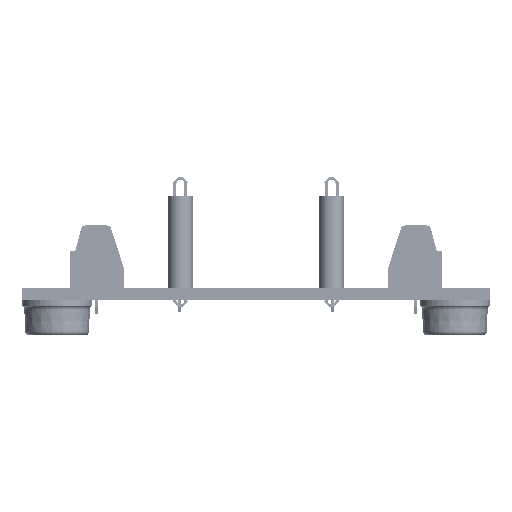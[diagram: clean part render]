
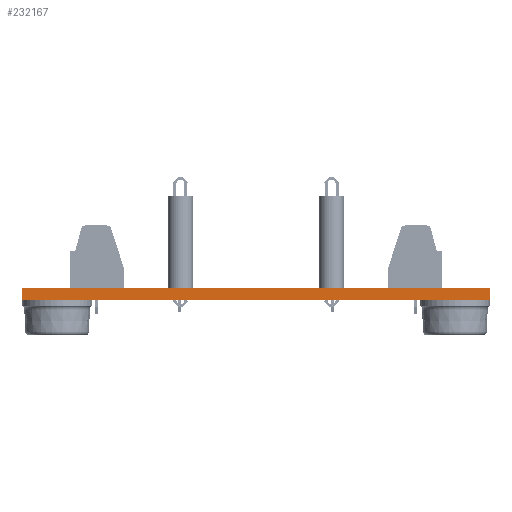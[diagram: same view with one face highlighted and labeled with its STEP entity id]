
A CAD part, left-side view. The second image highlights one B-rep face of the part: STEP entity #232167.
In plain terms, the highlighted planar face has unit normal (-1, 0, 0).
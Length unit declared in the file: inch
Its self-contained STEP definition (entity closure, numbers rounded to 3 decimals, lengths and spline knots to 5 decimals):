
#19286 = ORIENTED_EDGE ( 'NONE', *, *, #404063, .F. ) ;
#40787 = ORIENTED_EDGE ( 'NONE', *, *, #309260, .F. ) ;
#42255 = VERTEX_POINT ( 'NONE', #284220 ) ;
#58674 = PLANE ( 'NONE',  #409930 ) ;
#64025 = CARTESIAN_POINT ( 'NONE',  ( 0., 2.5, -0.0626 ) ) ;
#76797 = VECTOR ( 'NONE', #260042, 39.37008 ) ;
#80676 = CARTESIAN_POINT ( 'NONE',  ( 0., 2.5, -0.0626 ) ) ;
#90886 = CARTESIAN_POINT ( 'NONE',  ( 0., 2.5, -0.0626 ) ) ;
#94556 = VERTEX_POINT ( 'NONE', #332936 ) ;
#147935 = DIRECTION ( 'NONE',  ( 0., 1., 0. ) ) ;
#163816 = VECTOR ( 'NONE', #245113, 39.37008 ) ;
#172049 = EDGE_CURVE ( 'NONE', #433384, #94556, #432986, .T. ) ;
#174801 = LINE ( 'NONE', #217958, #76797 ) ;
#191775 = CARTESIAN_POINT ( 'NONE',  ( 0., 2.5, -0.0626 ) ) ;
#195764 = CARTESIAN_POINT ( 'NONE',  ( 0., 2.5, 0. ) ) ;
#204533 = VERTEX_POINT ( 'NONE', #195764 ) ;
#217958 = CARTESIAN_POINT ( 'NONE',  ( 0., 0., -0.0626 ) ) ;
#220892 = ORIENTED_EDGE ( 'NONE', *, *, #226931, .T. ) ;
#226931 = EDGE_CURVE ( 'NONE', #94556, #42255, #174801, .T. ) ;
#232167 = ADVANCED_FACE ( 'NONE', ( #252420 ), #58674, .F. ) ;
#245113 = DIRECTION ( 'NONE',  ( 0., 0., 1. ) ) ;
#249833 = VECTOR ( 'NONE', #301002, 39.37008 ) ;
#252420 = FACE_OUTER_BOUND ( 'NONE', #357668, .T. ) ;
#260042 = DIRECTION ( 'NONE',  ( 0., 0., 1. ) ) ;
#274126 = DIRECTION ( 'NONE',  ( 1., 0., 0. ) ) ;
#284220 = CARTESIAN_POINT ( 'NONE',  ( 0., 0., 0. ) ) ;
#301002 = DIRECTION ( 'NONE',  ( 0., -1., 0. ) ) ;
#307609 = LINE ( 'NONE', #80676, #163816 ) ;
#309260 = EDGE_CURVE ( 'NONE', #204533, #42255, #337680, .T. ) ;
#332936 = CARTESIAN_POINT ( 'NONE',  ( 0., 0., -0.0626 ) ) ;
#337680 = LINE ( 'NONE', #396958, #435865 ) ;
#357668 = EDGE_LOOP ( 'NONE', ( #539545, #220892, #40787, #19286 ) ) ;
#396958 = CARTESIAN_POINT ( 'NONE',  ( 0., 2.5, 0. ) ) ;
#404063 = EDGE_CURVE ( 'NONE', #433384, #204533, #307609, .T. ) ;
#409930 = AXIS2_PLACEMENT_3D ( 'NONE', #64025, #274126, #147935 ) ;
#432986 = LINE ( 'NONE', #90886, #249833 ) ;
#433384 = VERTEX_POINT ( 'NONE', #191775 ) ;
#435865 = VECTOR ( 'NONE', #437260, 39.37008 ) ;
#437260 = DIRECTION ( 'NONE',  ( 0., -1., 0. ) ) ;
#539545 = ORIENTED_EDGE ( 'NONE', *, *, #172049, .T. ) ;
